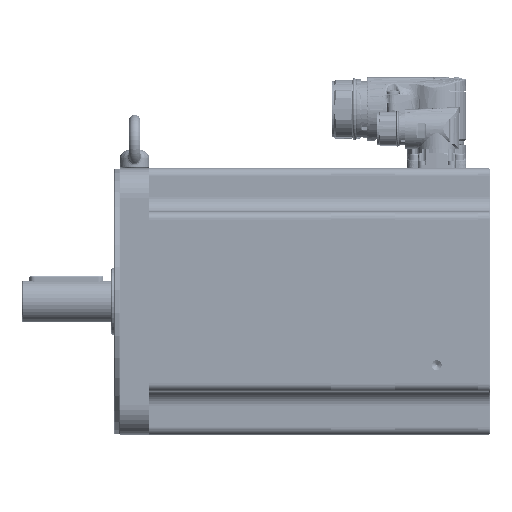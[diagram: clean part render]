
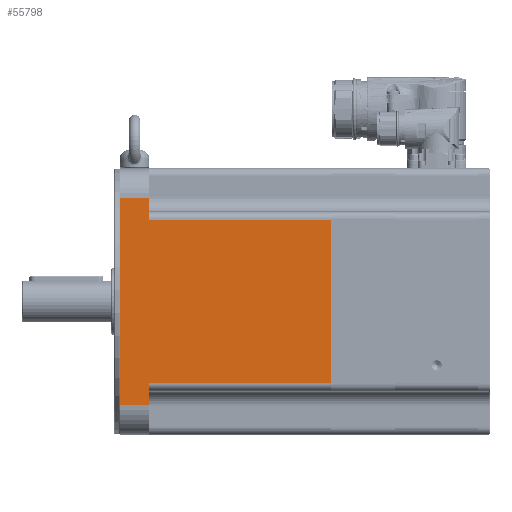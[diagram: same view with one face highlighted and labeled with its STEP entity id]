
A CAD part, left-side view. The second image highlights one B-rep face of the part: STEP entity #55798.
In plain terms, the highlighted planar face has unit normal (-1, 0, 0) as drawn and (1, 0, 0) by its records, which use the part's own axes.
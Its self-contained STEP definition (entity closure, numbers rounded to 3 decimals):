
#5140=PLANE('',#82183);
#23300=ORIENTED_EDGE('',*,*,#31463,.F.);
#23301=ORIENTED_EDGE('',*,*,#31531,.T.);
#23302=ORIENTED_EDGE('',*,*,#31499,.F.);
#23303=ORIENTED_EDGE('',*,*,#31532,.T.);
#23304=ORIENTED_EDGE('',*,*,#31533,.F.);
#23305=ORIENTED_EDGE('',*,*,#31534,.T.);
#23306=ORIENTED_EDGE('',*,*,#31519,.F.);
#23307=ORIENTED_EDGE('',*,*,#31535,.T.);
#31463=EDGE_CURVE('',#36893,#36894,#40033,.T.);
#31499=EDGE_CURVE('',#36929,#36930,#40047,.T.);
#31519=EDGE_CURVE('',#36949,#36950,#40054,.T.);
#31531=EDGE_CURVE('',#36893,#36930,#40062,.F.);
#31532=EDGE_CURVE('',#36929,#36957,#40063,.T.);
#31533=EDGE_CURVE('',#36958,#36957,#40064,.T.);
#31534=EDGE_CURVE('',#36958,#36950,#40065,.F.);
#31535=EDGE_CURVE('',#36949,#36894,#40066,.T.);
#36893=VERTEX_POINT('',#159860);
#36894=VERTEX_POINT('',#159862);
#36929=VERTEX_POINT('',#159941);
#36930=VERTEX_POINT('',#159943);
#36949=VERTEX_POINT('',#159988);
#36950=VERTEX_POINT('',#159989);
#36957=VERTEX_POINT('',#160013);
#36958=VERTEX_POINT('',#160015);
#40033=LINE('',#159861,#43123);
#40047=LINE('',#159942,#43137);
#40054=LINE('',#159987,#43144);
#40062=LINE('',#160011,#43152);
#40063=LINE('',#160012,#43153);
#40064=LINE('',#160014,#43154);
#40065=LINE('',#160016,#43155);
#40066=LINE('',#160017,#43156);
#43123=VECTOR('',#96114,1000.);
#43137=VECTOR('',#96190,1000.);
#43144=VECTOR('',#96235,1000.);
#43152=VECTOR('',#96259,1000.);
#43153=VECTOR('',#96260,1000.);
#43154=VECTOR('',#96261,1000.);
#43155=VECTOR('',#96262,1000.);
#43156=VECTOR('',#96263,1000.);
#47283=EDGE_LOOP('',(#23300,#23301,#23302,#23303,#23304,#23305,#23306,#23307));
#51515=FACE_BOUND('',#47283,.T.);
#55798=ADVANCED_FACE('',(#51515),#5140,.T.);
#82183=AXIS2_PLACEMENT_3D('',#160010,#96257,#96258);
#96114=DIRECTION('',(0.,0.,-1.));
#96190=DIRECTION('',(0.,0.,-1.));
#96235=DIRECTION('',(0.,0.,-1.));
#96257=DIRECTION('',(1.,0.,0.));
#96258=DIRECTION('',(0.,1.,0.));
#96259=DIRECTION('',(0.,1.,0.));
#96260=DIRECTION('',(0.,-1.,0.));
#96261=DIRECTION('',(0.,0.,1.));
#96262=DIRECTION('',(0.,-1.,0.));
#96263=DIRECTION('',(0.,1.,0.));
#159860=CARTESIAN_POINT('',(90.,143.8,55.2));
#159861=CARTESIAN_POINT('',(90.,143.8,-90.));
#159862=CARTESIAN_POINT('',(90.,143.8,-55.2));
#159941=CARTESIAN_POINT('',(90.,21.3,70.));
#159942=CARTESIAN_POINT('',(90.,21.3,-90.));
#159943=CARTESIAN_POINT('',(90.,21.3,55.2));
#159987=CARTESIAN_POINT('',(90.,21.3,-90.));
#159988=CARTESIAN_POINT('',(90.,21.3,-55.2));
#159989=CARTESIAN_POINT('',(90.,21.3,-70.));
#160010=CARTESIAN_POINT('',(90.,491.763,-90.));
#160011=CARTESIAN_POINT('',(90.,491.763,55.2));
#160012=CARTESIAN_POINT('',(90.,491.763,70.));
#160013=CARTESIAN_POINT('',(90.,1.3,70.));
#160014=CARTESIAN_POINT('',(90.,1.3,-90.));
#160015=CARTESIAN_POINT('',(90.,1.3,-70.));
#160016=CARTESIAN_POINT('',(90.,491.763,-70.));
#160017=CARTESIAN_POINT('',(90.,491.763,-55.2));
